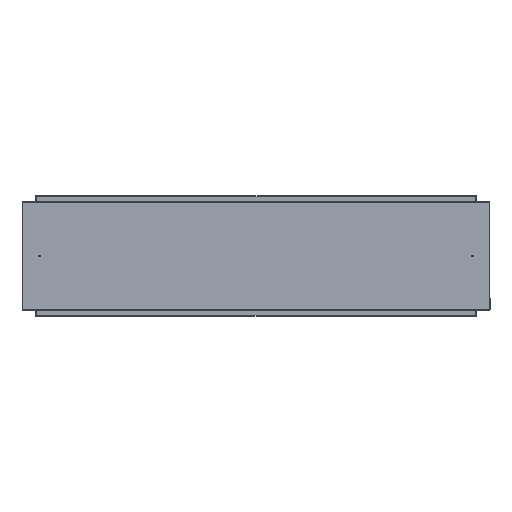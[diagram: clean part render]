
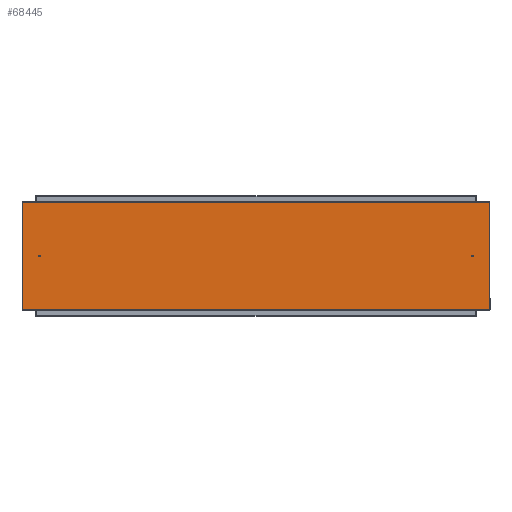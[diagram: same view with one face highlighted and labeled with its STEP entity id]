
A CAD part, left-side view. The second image highlights one B-rep face of the part: STEP entity #68445.
In plain terms, the highlighted planar face has unit normal (-1, 0, 0) as drawn and (0, 0, -1) by its records, which use the part's own axes.
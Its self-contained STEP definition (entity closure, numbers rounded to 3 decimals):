
#569 = CARTESIAN_POINT ( 'NONE',  ( 183.49, -798.5, 0. ) ) ;
#677 = LINE ( 'NONE', #44302, #43984 ) ;
#1558 = FACE_OUTER_BOUND ( 'NONE', #78114, .T. ) ;
#2699 = EDGE_CURVE ( 'NONE', #30342, #13763, #677, .T. ) ;
#3924 = ORIENTED_EDGE ( 'NONE', *, *, #28274, .F. ) ;
#8759 = PLANE ( 'NONE',  #11888 ) ;
#9247 = DIRECTION ( 'NONE',  ( 1., 0., 0. ) ) ;
#10038 = CARTESIAN_POINT ( 'NONE',  ( -183.49, 798.5, 0. ) ) ;
#10521 = DIRECTION ( 'NONE',  ( -1., 0., 0. ) ) ;
#11888 = AXIS2_PLACEMENT_3D ( 'NONE', #17851, #82031, #9247 ) ;
#11963 = ORIENTED_EDGE ( 'NONE', *, *, #31851, .F. ) ;
#13528 = VECTOR ( 'NONE', #82540, 1000. ) ;
#13763 = VERTEX_POINT ( 'NONE', #81291 ) ;
#17851 = CARTESIAN_POINT ( 'NONE',  ( -183.49, 798.5, 0. ) ) ;
#22885 = CARTESIAN_POINT ( 'NONE',  ( -183.49, -798.5, 0. ) ) ;
#23213 = DIRECTION ( 'NONE',  ( 0., 1., 0. ) ) ;
#28274 = EDGE_CURVE ( 'NONE', #13763, #88754, #32096, .T. ) ;
#28289 = LINE ( 'NONE', #84846, #51622 ) ;
#28682 = ORIENTED_EDGE ( 'NONE', *, *, #2699, .F. ) ;
#30342 = VERTEX_POINT ( 'NONE', #569 ) ;
#31851 = EDGE_CURVE ( 'NONE', #78966, #30342, #28289, .T. ) ;
#32096 = LINE ( 'NONE', #10038, #33233 ) ;
#33233 = VECTOR ( 'NONE', #10521, 1000. ) ;
#43984 = VECTOR ( 'NONE', #23213, 1000. ) ;
#44302 = CARTESIAN_POINT ( 'NONE',  ( 183.49, 798.5, 0. ) ) ;
#49928 = ORIENTED_EDGE ( 'NONE', *, *, #54137, .F. ) ;
#51622 = VECTOR ( 'NONE', #64240, 1000. ) ;
#54137 = EDGE_CURVE ( 'NONE', #88754, #78966, #60505, .T. ) ;
#60505 = LINE ( 'NONE', #60995, #13528 ) ;
#60995 = CARTESIAN_POINT ( 'NONE',  ( -183.49, 798.5, 0. ) ) ;
#64240 = DIRECTION ( 'NONE',  ( 1., 0., 0. ) ) ;
#66838 = CARTESIAN_POINT ( 'NONE',  ( -183.49, 798.5, 0. ) ) ;
#68445 = ADVANCED_FACE ( 'NONE', ( #1558 ), #8759, .F. ) ;
#78114 = EDGE_LOOP ( 'NONE', ( #49928, #3924, #28682, #11963 ) ) ;
#78966 = VERTEX_POINT ( 'NONE', #22885 ) ;
#81291 = CARTESIAN_POINT ( 'NONE',  ( 183.49, 798.5, 0. ) ) ;
#82031 = DIRECTION ( 'NONE',  ( 0., 0., 1. ) ) ;
#82540 = DIRECTION ( 'NONE',  ( 0., -1., 0. ) ) ;
#84846 = CARTESIAN_POINT ( 'NONE',  ( -183.49, -798.5, 0. ) ) ;
#88754 = VERTEX_POINT ( 'NONE', #66838 ) ;
